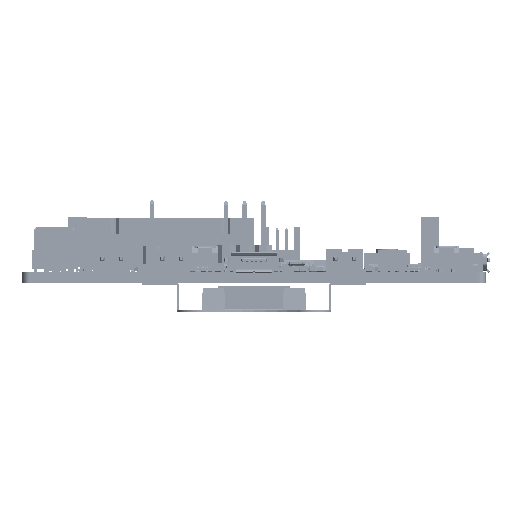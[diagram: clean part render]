
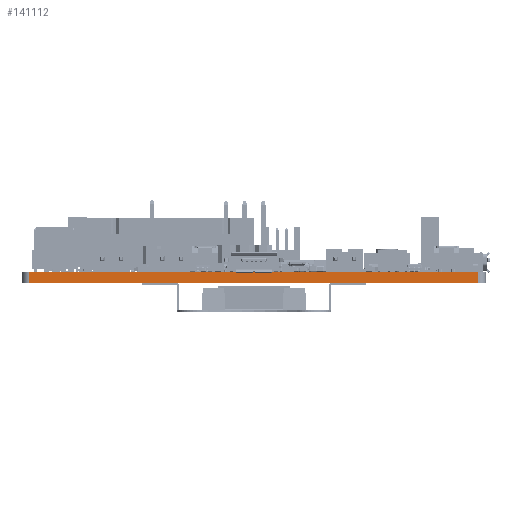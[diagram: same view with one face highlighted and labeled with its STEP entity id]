
A CAD part, left-side view. The second image highlights one B-rep face of the part: STEP entity #141112.
In plain terms, the highlighted planar face has unit normal (-1, 0, 0).
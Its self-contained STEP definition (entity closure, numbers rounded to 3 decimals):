
#19860=VERTEX_POINT('',#194884);
#19861=VERTEX_POINT('',#194885);
#19862=VERTEX_POINT('',#194887);
#19863=VERTEX_POINT('',#194889);
#32536=VECTOR('',#160531,1.);
#32537=VECTOR('',#160532,1.);
#32538=VECTOR('',#160533,1.);
#32539=VECTOR('',#160534,1.);
#48867=LINE('',#194883,#32536);
#48868=LINE('',#194886,#32537);
#48869=LINE('',#194888,#32538);
#48870=LINE('',#194890,#32539);
#65198=EDGE_CURVE('',#19860,#19861,#48867,.T.);
#65199=EDGE_CURVE('',#19861,#19862,#48868,.T.);
#65200=EDGE_CURVE('',#19863,#19862,#48869,.T.);
#65201=EDGE_CURVE('',#19860,#19863,#48870,.T.);
#85156=ORIENTED_EDGE('',*,*,#65198,.T.);
#85157=ORIENTED_EDGE('',*,*,#65199,.T.);
#85158=ORIENTED_EDGE('',*,*,#65200,.F.);
#85159=ORIENTED_EDGE('',*,*,#65201,.F.);
#125068=EDGE_LOOP('',(#85156,#85157,#85158,#85159));
#133090=FACE_BOUND('',#125068,.T.);
#141112=ADVANCED_FACE('',(#133090),#249547,.T.);
#148685=AXIS2_PLACEMENT_3D('',#194882,#160530,$);
#160530=DIRECTION('',(-1.,0.,0.));
#160531=DIRECTION('',(0.,0.,1.));
#160532=DIRECTION('',(0.,1.,0.));
#160533=DIRECTION('',(0.,0.,1.));
#160534=DIRECTION('',(0.,1.,0.));
#194882=CARTESIAN_POINT('',(0.,1.016,-1.6));
#194883=CARTESIAN_POINT('',(0.,1.016,-1.6));
#194884=CARTESIAN_POINT('',(0.,1.016,-1.6));
#194885=CARTESIAN_POINT('',(0.,1.016,0.));
#194886=CARTESIAN_POINT('',(0.,1.016,0.));
#194887=CARTESIAN_POINT('',(0.,62.509,0.));
#194888=CARTESIAN_POINT('',(0.,62.509,-1.6));
#194889=CARTESIAN_POINT('',(0.,62.509,-1.6));
#194890=CARTESIAN_POINT('',(0.,1.016,-1.6));
#249547=PLANE('',#148685);
